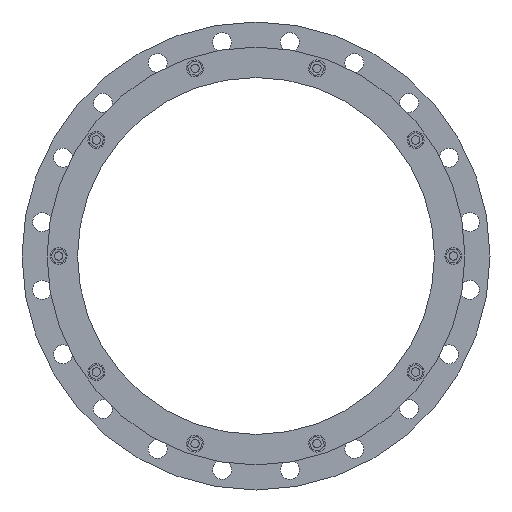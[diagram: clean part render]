
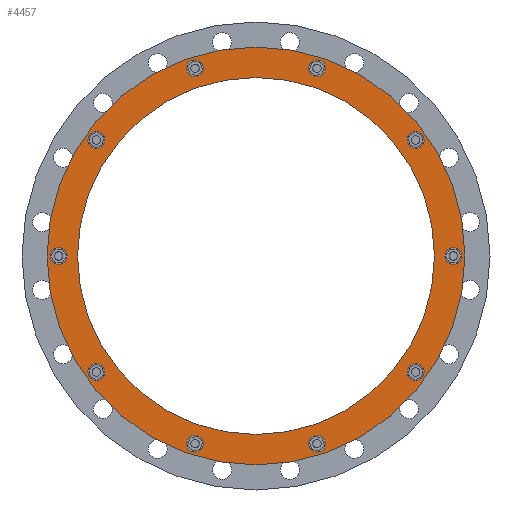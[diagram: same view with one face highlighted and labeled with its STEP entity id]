
A CAD part, front view. The second image highlights one B-rep face of the part: STEP entity #4457.
In plain terms, the highlighted planar face has unit normal (0, -1, 0).
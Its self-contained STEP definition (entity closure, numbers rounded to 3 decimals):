
#1094=CARTESIAN_POINT('',(0.,-94.452,0.));
#1095=DIRECTION('',(0.,-1.,0.));
#1096=DIRECTION('',(1.,0.,0.));
#1097=AXIS2_PLACEMENT_3D('',#1094,#1095,#1096);
#1099=CARTESIAN_POINT('',(0.,-94.452,0.));
#1100=DIRECTION('',(0.,1.,0.));
#1101=DIRECTION('',(1.,0.,0.));
#1102=AXIS2_PLACEMENT_3D('',#1099,#1100,#1101);
#1104=CARTESIAN_POINT('',(282.5,-94.452,0.));
#1105=DIRECTION('',(0.,-1.,0.));
#1106=DIRECTION('',(0.,0.,-1.));
#1107=AXIS2_PLACEMENT_3D('',#1104,#1105,#1106);
#1109=CARTESIAN_POINT('',(282.5,-94.452,0.));
#1110=DIRECTION('',(0.,-1.,0.));
#1111=DIRECTION('',(0.,0.,1.));
#1112=AXIS2_PLACEMENT_3D('',#1109,#1110,#1111);
#1114=CARTESIAN_POINT('',(228.547,-94.452,166.049));
#1115=DIRECTION('',(0.,-1.,0.));
#1116=DIRECTION('',(0.588,0.,-0.809));
#1117=AXIS2_PLACEMENT_3D('',#1114,#1115,#1116);
#1119=CARTESIAN_POINT('',(228.547,-94.452,166.049));
#1120=DIRECTION('',(0.,-1.,0.));
#1121=DIRECTION('',(-0.588,0.,0.809));
#1122=AXIS2_PLACEMENT_3D('',#1119,#1120,#1121);
#1124=CARTESIAN_POINT('',(87.297,-94.452,268.673));
#1125=DIRECTION('',(0.,-1.,0.));
#1126=DIRECTION('',(0.951,0.,-0.309));
#1127=AXIS2_PLACEMENT_3D('',#1124,#1125,#1126);
#1129=CARTESIAN_POINT('',(87.297,-94.452,268.673));
#1130=DIRECTION('',(0.,-1.,0.));
#1131=DIRECTION('',(-0.951,0.,0.309));
#1132=AXIS2_PLACEMENT_3D('',#1129,#1130,#1131);
#1134=CARTESIAN_POINT('',(-87.297,-94.452,268.673));
#1135=DIRECTION('',(0.,-1.,0.));
#1136=DIRECTION('',(0.951,0.,0.309));
#1137=AXIS2_PLACEMENT_3D('',#1134,#1135,#1136);
#1139=CARTESIAN_POINT('',(-87.297,-94.452,268.673));
#1140=DIRECTION('',(0.,-1.,0.));
#1141=DIRECTION('',(-0.951,0.,-0.309));
#1142=AXIS2_PLACEMENT_3D('',#1139,#1140,#1141);
#1144=CARTESIAN_POINT('',(-228.547,-94.452,166.049));
#1145=DIRECTION('',(0.,-1.,0.));
#1146=DIRECTION('',(0.588,0.,0.809));
#1147=AXIS2_PLACEMENT_3D('',#1144,#1145,#1146);
#1149=CARTESIAN_POINT('',(-228.547,-94.452,166.049));
#1150=DIRECTION('',(0.,-1.,0.));
#1151=DIRECTION('',(-0.588,0.,-0.809));
#1152=AXIS2_PLACEMENT_3D('',#1149,#1150,#1151);
#1154=CARTESIAN_POINT('',(-282.5,-94.452,0.));
#1155=DIRECTION('',(0.,-1.,0.));
#1156=DIRECTION('',(0.,0.,1.));
#1157=AXIS2_PLACEMENT_3D('',#1154,#1155,#1156);
#1159=CARTESIAN_POINT('',(-282.5,-94.452,0.));
#1160=DIRECTION('',(0.,-1.,0.));
#1161=DIRECTION('',(0.,0.,-1.));
#1162=AXIS2_PLACEMENT_3D('',#1159,#1160,#1161);
#1164=CARTESIAN_POINT('',(-228.547,-94.452,-166.049));
#1165=DIRECTION('',(0.,-1.,0.));
#1166=DIRECTION('',(-0.588,0.,0.809));
#1167=AXIS2_PLACEMENT_3D('',#1164,#1165,#1166);
#1169=CARTESIAN_POINT('',(-228.547,-94.452,-166.049));
#1170=DIRECTION('',(0.,-1.,0.));
#1171=DIRECTION('',(0.588,0.,-0.809));
#1172=AXIS2_PLACEMENT_3D('',#1169,#1170,#1171);
#1174=CARTESIAN_POINT('',(-87.297,-94.452,-268.673));
#1175=DIRECTION('',(0.,-1.,0.));
#1176=DIRECTION('',(-0.951,0.,0.309));
#1177=AXIS2_PLACEMENT_3D('',#1174,#1175,#1176);
#1179=CARTESIAN_POINT('',(-87.297,-94.452,-268.673));
#1180=DIRECTION('',(0.,-1.,0.));
#1181=DIRECTION('',(0.951,0.,-0.309));
#1182=AXIS2_PLACEMENT_3D('',#1179,#1180,#1181);
#1184=CARTESIAN_POINT('',(87.297,-94.452,-268.673));
#1185=DIRECTION('',(0.,-1.,0.));
#1186=DIRECTION('',(-0.951,0.,-0.309));
#1187=AXIS2_PLACEMENT_3D('',#1184,#1185,#1186);
#1189=CARTESIAN_POINT('',(87.297,-94.452,-268.673));
#1190=DIRECTION('',(0.,-1.,0.));
#1191=DIRECTION('',(0.951,0.,0.309));
#1192=AXIS2_PLACEMENT_3D('',#1189,#1190,#1191);
#1194=CARTESIAN_POINT('',(228.547,-94.452,-166.049));
#1195=DIRECTION('',(0.,-1.,0.));
#1196=DIRECTION('',(-0.588,0.,-0.809));
#1197=AXIS2_PLACEMENT_3D('',#1194,#1195,#1196);
#1199=CARTESIAN_POINT('',(228.547,-94.452,-166.049));
#1200=DIRECTION('',(0.,-1.,0.));
#1201=DIRECTION('',(0.588,0.,0.809));
#1202=AXIS2_PLACEMENT_3D('',#1199,#1200,#1201);
#1204=CARTESIAN_POINT('',(0.,-94.452,0.));
#1205=DIRECTION('',(0.,1.,0.));
#1206=DIRECTION('',(1.,0.,0.));
#1207=AXIS2_PLACEMENT_3D('',#1204,#1205,#1206);
#1217=CARTESIAN_POINT('',(0.,-94.452,0.));
#1218=DIRECTION('',(0.,-1.,0.));
#1219=DIRECTION('',(1.,0.,0.));
#1220=AXIS2_PLACEMENT_3D('',#1217,#1218,#1219);
#2955=CARTESIAN_POINT('',(299.1,-94.452,0.));
#2957=VERTEX_POINT('',#2955);
#2958=CARTESIAN_POINT('',(255.5,-94.452,0.));
#2960=VERTEX_POINT('',#2958);
#2967=CARTESIAN_POINT('',(-299.1,-94.452,0.));
#2969=VERTEX_POINT('',#2967);
#2970=CARTESIAN_POINT('',(-255.5,-94.452,0.));
#2972=VERTEX_POINT('',#2970);
#3009=CARTESIAN_POINT('',(282.5,-94.452,-12.));
#3010=CARTESIAN_POINT('',(282.5,-94.452,12.));
#3011=VERTEX_POINT('',#3009);
#3012=VERTEX_POINT('',#3010);
#3058=CARTESIAN_POINT('',(235.601,-94.452,156.341));
#3059=VERTEX_POINT('',#3058);
#3060=CARTESIAN_POINT('',(221.494,-94.452,175.758));
#3061=VERTEX_POINT('',#3060);
#3102=CARTESIAN_POINT('',(98.71,-94.452,264.965));
#3103=VERTEX_POINT('',#3102);
#3104=CARTESIAN_POINT('',(75.885,-94.452,272.382));
#3105=VERTEX_POINT('',#3104);
#3146=CARTESIAN_POINT('',(-75.885,-94.452,272.382));
#3147=VERTEX_POINT('',#3146);
#3148=CARTESIAN_POINT('',(-98.71,-94.452,264.965));
#3149=VERTEX_POINT('',#3148);
#3190=CARTESIAN_POINT('',(-221.494,-94.452,175.758));
#3191=VERTEX_POINT('',#3190);
#3192=CARTESIAN_POINT('',(-235.601,-94.452,156.341));
#3193=VERTEX_POINT('',#3192);
#3234=CARTESIAN_POINT('',(-282.5,-94.452,12.));
#3235=VERTEX_POINT('',#3234);
#3236=CARTESIAN_POINT('',(-282.5,-94.452,-12.));
#3237=VERTEX_POINT('',#3236);
#3278=CARTESIAN_POINT('',(-235.601,-94.452,-156.341));
#3279=VERTEX_POINT('',#3278);
#3280=CARTESIAN_POINT('',(-221.494,-94.452,-175.758));
#3281=VERTEX_POINT('',#3280);
#3322=CARTESIAN_POINT('',(-98.71,-94.452,-264.965));
#3323=VERTEX_POINT('',#3322);
#3324=CARTESIAN_POINT('',(-75.885,-94.452,-272.382));
#3325=VERTEX_POINT('',#3324);
#3537=CARTESIAN_POINT('',(75.885,-94.452,-272.382));
#3538=VERTEX_POINT('',#3537);
#3539=CARTESIAN_POINT('',(98.71,-94.452,-264.965));
#3540=VERTEX_POINT('',#3539);
#3581=CARTESIAN_POINT('',(221.494,-94.452,-175.758));
#3582=VERTEX_POINT('',#3581);
#3583=CARTESIAN_POINT('',(235.601,-94.452,-156.341));
#3584=VERTEX_POINT('',#3583);
#4382=CARTESIAN_POINT('',(0.,-94.452,0.));
#4383=DIRECTION('',(0.,1.,0.));
#4384=DIRECTION('',(-1.,0.,0.));
#4385=AXIS2_PLACEMENT_3D('',#4382,#4383,#4384);
#4386=PLANE('',#4385);
#4388=ORIENTED_EDGE('',*,*,#4387,.F.);
#4390=ORIENTED_EDGE('',*,*,#4389,.T.);
#4391=EDGE_LOOP('',(#4388,#4390));
#4392=FACE_OUTER_BOUND('',#4391,.F.);
#4394=ORIENTED_EDGE('',*,*,#4393,.F.);
#4396=ORIENTED_EDGE('',*,*,#4395,.T.);
#4397=EDGE_LOOP('',(#4394,#4396));
#4398=FACE_BOUND('',#4397,.F.);
#4400=ORIENTED_EDGE('',*,*,#4399,.T.);
#4402=ORIENTED_EDGE('',*,*,#4401,.T.);
#4403=EDGE_LOOP('',(#4400,#4402));
#4404=FACE_BOUND('',#4403,.F.);
#4406=ORIENTED_EDGE('',*,*,#4405,.T.);
#4408=ORIENTED_EDGE('',*,*,#4407,.T.);
#4409=EDGE_LOOP('',(#4406,#4408));
#4410=FACE_BOUND('',#4409,.F.);
#4412=ORIENTED_EDGE('',*,*,#4411,.T.);
#4414=ORIENTED_EDGE('',*,*,#4413,.T.);
#4415=EDGE_LOOP('',(#4412,#4414));
#4416=FACE_BOUND('',#4415,.F.);
#4418=ORIENTED_EDGE('',*,*,#4417,.T.);
#4420=ORIENTED_EDGE('',*,*,#4419,.T.);
#4421=EDGE_LOOP('',(#4418,#4420));
#4422=FACE_BOUND('',#4421,.F.);
#4424=ORIENTED_EDGE('',*,*,#4423,.T.);
#4426=ORIENTED_EDGE('',*,*,#4425,.T.);
#4427=EDGE_LOOP('',(#4424,#4426));
#4428=FACE_BOUND('',#4427,.F.);
#4430=ORIENTED_EDGE('',*,*,#4429,.T.);
#4432=ORIENTED_EDGE('',*,*,#4431,.T.);
#4433=EDGE_LOOP('',(#4430,#4432));
#4434=FACE_BOUND('',#4433,.F.);
#4436=ORIENTED_EDGE('',*,*,#4435,.T.);
#4438=ORIENTED_EDGE('',*,*,#4437,.T.);
#4439=EDGE_LOOP('',(#4436,#4438));
#4440=FACE_BOUND('',#4439,.F.);
#4442=ORIENTED_EDGE('',*,*,#4441,.T.);
#4444=ORIENTED_EDGE('',*,*,#4443,.T.);
#4445=EDGE_LOOP('',(#4442,#4444));
#4446=FACE_BOUND('',#4445,.F.);
#4447=ORIENTED_EDGE('',*,*,#4364,.T.);
#4448=ORIENTED_EDGE('',*,*,#4375,.T.);
#4449=EDGE_LOOP('',(#4447,#4448));
#4450=FACE_BOUND('',#4449,.F.);
#4452=ORIENTED_EDGE('',*,*,#4451,.T.);
#4454=ORIENTED_EDGE('',*,*,#4453,.T.);
#4455=EDGE_LOOP('',(#4452,#4454));
#4456=FACE_BOUND('',#4455,.F.);
#4457=ADVANCED_FACE('',(#4392,#4398,#4404,#4410,#4416,#4422,#4428,#4434,#4440,
#4446,#4450,#4456),#4386,.F.);
#1098=CIRCLE('',#1097,299.1);
#1103=CIRCLE('',#1102,299.1);
#1108=CIRCLE('',#1107,12.);
#1113=CIRCLE('',#1112,12.);
#1118=CIRCLE('',#1117,12.);
#1123=CIRCLE('',#1122,12.);
#1128=CIRCLE('',#1127,12.);
#1133=CIRCLE('',#1132,12.);
#1138=CIRCLE('',#1137,12.);
#1143=CIRCLE('',#1142,12.);
#1148=CIRCLE('',#1147,12.);
#1153=CIRCLE('',#1152,12.);
#1158=CIRCLE('',#1157,12.);
#1163=CIRCLE('',#1162,12.);
#1168=CIRCLE('',#1167,12.);
#1173=CIRCLE('',#1172,12.);
#1178=CIRCLE('',#1177,12.);
#1183=CIRCLE('',#1182,12.);
#1188=CIRCLE('',#1187,12.);
#1193=CIRCLE('',#1192,12.);
#1198=CIRCLE('',#1197,12.);
#1203=CIRCLE('',#1202,12.);
#1208=CIRCLE('',#1207,255.5);
#1221=CIRCLE('',#1220,255.5);
#4364=EDGE_CURVE('',#3538,#3540,#1188,.T.);
#4375=EDGE_CURVE('',#3540,#3538,#1193,.T.);
#4387=EDGE_CURVE('',#2957,#2969,#1098,.T.);
#4389=EDGE_CURVE('',#2957,#2969,#1103,.T.);
#4393=EDGE_CURVE('',#2960,#2972,#1208,.T.);
#4395=EDGE_CURVE('',#2960,#2972,#1221,.T.);
#4399=EDGE_CURVE('',#3011,#3012,#1108,.T.);
#4401=EDGE_CURVE('',#3012,#3011,#1113,.T.);
#4405=EDGE_CURVE('',#3059,#3061,#1118,.T.);
#4407=EDGE_CURVE('',#3061,#3059,#1123,.T.);
#4411=EDGE_CURVE('',#3103,#3105,#1128,.T.);
#4413=EDGE_CURVE('',#3105,#3103,#1133,.T.);
#4417=EDGE_CURVE('',#3147,#3149,#1138,.T.);
#4419=EDGE_CURVE('',#3149,#3147,#1143,.T.);
#4423=EDGE_CURVE('',#3191,#3193,#1148,.T.);
#4425=EDGE_CURVE('',#3193,#3191,#1153,.T.);
#4429=EDGE_CURVE('',#3235,#3237,#1158,.T.);
#4431=EDGE_CURVE('',#3237,#3235,#1163,.T.);
#4435=EDGE_CURVE('',#3279,#3281,#1168,.T.);
#4437=EDGE_CURVE('',#3281,#3279,#1173,.T.);
#4441=EDGE_CURVE('',#3323,#3325,#1178,.T.);
#4443=EDGE_CURVE('',#3325,#3323,#1183,.T.);
#4451=EDGE_CURVE('',#3582,#3584,#1198,.T.);
#4453=EDGE_CURVE('',#3584,#3582,#1203,.T.);
